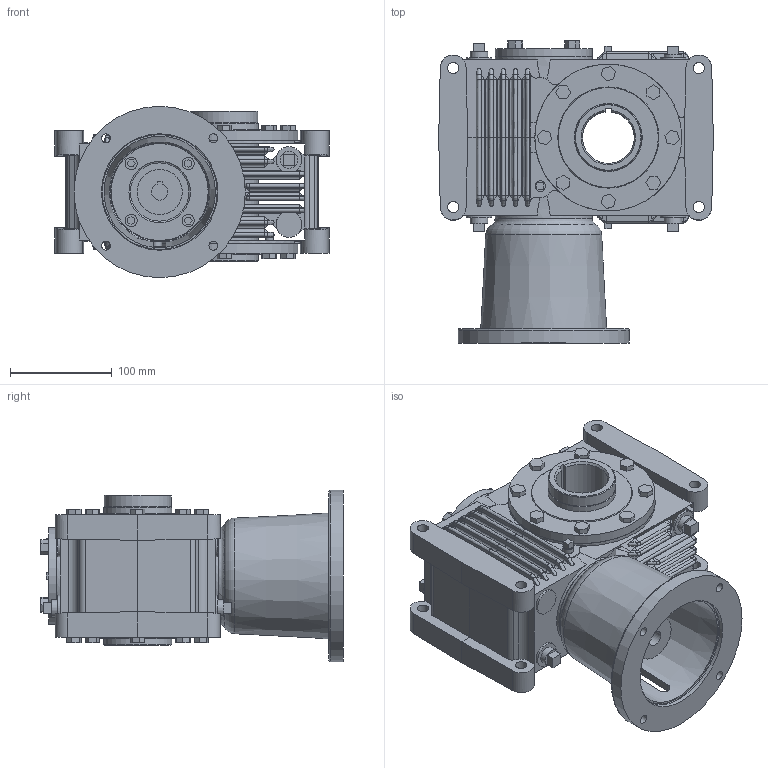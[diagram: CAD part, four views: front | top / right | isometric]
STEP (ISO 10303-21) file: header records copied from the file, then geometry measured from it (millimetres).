
FILE_DESCRIPTION(/* description */ ('Unknown'),/* implementation_level */ '2;1');
FILE_NAME(/* name */ 'HV-25-7AKBNG010',/* time_stamp */ '2024-11-21T09:15:01-05:00',/* author */ ('Unknown'),/* organization */ ('Unknown'),/* preprocessor_version */ 'ST-DEVELOPER v19.4',/* originating_system */ 'Solid Edge',/* authorisation */ 'Unknown');
FILE_SCHEMA (('AUTOMOTIVE_DESIGN {1 0 10303 214 3 1 1}'));
Length unit declared in the file: millimetre
Products named in the file (6): HV-25-7AKBNG010; 25-1-CP; 25-OUTHS-2000; 25-OUTH-2000; 25-MTR45-56C; 25-WCAP
Assembly tree (5 placements, depth 2):
  HV-25-7AKBNG010
    25-1-CP
    25-OUTHS-2000
    25-OUTH-2000
    25-MTR45-56C
    25-WCAP
Bounding box: 269.75 x 297.02 x 168.28 mm (x, y, z)
Volume: 4857884.8 mm3; surface area: 489917.7 mm2
Topology: 5 solids, 5 shells, 1103 faces, 2619 edges, 1597 vertices
Faces by surface type: plane 537, bspline 404, cylinder 145, cone 10, torus 7
Full cylindrical faces by diameter (mm): 0.254 x5, 1.27 x1, 2.54 x1, 7.938 x8, 8.731 x4, 10.287 x4, 11.125 x8, 11.906 x4, 17.043 x3, 17.066 x1, 19.037 x1, 20.574 x2, 22.225 x1, 25.4 x4, 44.45 x1, 60.325 x1, 65.862 x1, 66.675 x5, 67.945 x3, 95.25 x4, 114.338 x1, 144.272 x2, 168.275 x1
Entity records: 39810 total; most frequent: CARTESIAN_POINT 15286, ORIENTED_EDGE 4984, DIRECTION 4023, EDGE_CURVE 2492, VERTEX_POINT 1563, LINE 1479, VECTOR 1479, EDGE_LOOP 1299
